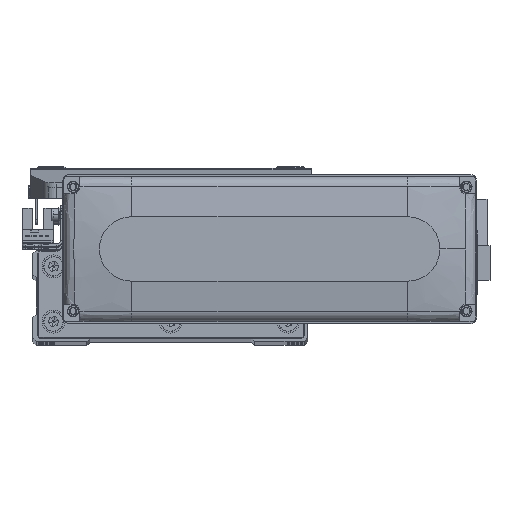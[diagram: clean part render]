
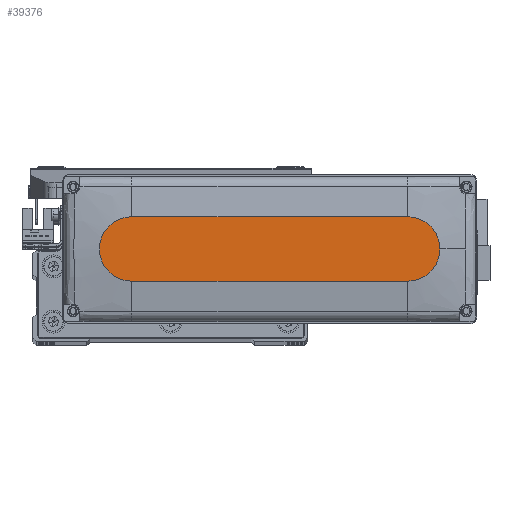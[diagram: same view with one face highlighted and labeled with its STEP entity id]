
A CAD part, top view. The second image highlights one B-rep face of the part: STEP entity #39376.
In plain terms, the highlighted planar face has unit normal (0, 0, 1).
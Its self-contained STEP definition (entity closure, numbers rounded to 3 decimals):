
#753 = ORIENTED_EDGE ( 'NONE', *, *, #21655, .T. ) ;
#1985 = CARTESIAN_POINT ( 'NONE',  ( 0., 0., 28.5 ) ) ;
#2040 = CARTESIAN_POINT ( 'NONE',  ( 60., 14., 28.5 ) ) ;
#2732 = CARTESIAN_POINT ( 'NONE',  ( -60., 14., 28.5 ) ) ;
#3258 = EDGE_CURVE ( 'NONE', #52923, #38708, #5614, .T. ) ;
#5614 = CIRCLE ( 'NONE', #6476, 14. ) ;
#6430 = ORIENTED_EDGE ( 'NONE', *, *, #21506, .T. ) ;
#6476 = AXIS2_PLACEMENT_3D ( 'NONE', #23831, #24091, #53182 ) ;
#7937 = DIRECTION ( 'NONE',  ( 1., 0., 0. ) ) ;
#8866 = AXIS2_PLACEMENT_3D ( 'NONE', #30537, #39084, #38002 ) ;
#9226 = CARTESIAN_POINT ( 'NONE',  ( 60., 0., 28.5 ) ) ;
#9383 = DIRECTION ( 'NONE',  ( 0., 0., 1. ) ) ;
#9647 = VECTOR ( 'NONE', #53135, 1000. ) ;
#9873 = EDGE_CURVE ( 'NONE', #38708, #47967, #41985, .T. ) ;
#9982 = LINE ( 'NONE', #23396, #33436 ) ;
#11039 = CARTESIAN_POINT ( 'NONE',  ( 74., 0., 28.5 ) ) ;
#11961 = AXIS2_PLACEMENT_3D ( 'NONE', #1985, #9383, #18719 ) ;
#16150 = EDGE_CURVE ( 'NONE', #24397, #52923, #41325, .T. ) ;
#18719 = DIRECTION ( 'NONE',  ( 1., 0., 0. ) ) ;
#21506 = EDGE_CURVE ( 'NONE', #50045, #24397, #32516, .T. ) ;
#21655 = EDGE_CURVE ( 'NONE', #47967, #50045, #9982, .T. ) ;
#23396 = CARTESIAN_POINT ( 'NONE',  ( -60., 14., 28.5 ) ) ;
#23547 = CARTESIAN_POINT ( 'NONE',  ( -60., -14., 28.5 ) ) ;
#23831 = CARTESIAN_POINT ( 'NONE',  ( 60., 0., 28.5 ) ) ;
#24091 = DIRECTION ( 'NONE',  ( 0., 0., 1. ) ) ;
#24397 = VERTEX_POINT ( 'NONE', #23547 ) ;
#29628 = ORIENTED_EDGE ( 'NONE', *, *, #3258, .T. ) ;
#30537 = CARTESIAN_POINT ( 'NONE',  ( -60., 0., 28.5 ) ) ;
#32516 = CIRCLE ( 'NONE', #8866, 14. ) ;
#33011 = ORIENTED_EDGE ( 'NONE', *, *, #9873, .T. ) ;
#33436 = VECTOR ( 'NONE', #52780, 1000. ) ;
#34065 = CARTESIAN_POINT ( 'NONE',  ( 60., -14., 28.5 ) ) ;
#38002 = DIRECTION ( 'NONE',  ( 1., 0., 0. ) ) ;
#38494 = PLANE ( 'NONE',  #11961 ) ;
#38708 = VERTEX_POINT ( 'NONE', #11039 ) ;
#39084 = DIRECTION ( 'NONE',  ( 0., 0., 1. ) ) ;
#39376 = ADVANCED_FACE ( 'NONE', ( #51112 ), #38494, .T. ) ;
#41325 = LINE ( 'NONE', #45164, #9647 ) ;
#41985 = CIRCLE ( 'NONE', #50763, 14. ) ;
#42685 = DIRECTION ( 'NONE',  ( 0., 0., 1. ) ) ;
#45164 = CARTESIAN_POINT ( 'NONE',  ( -60., -14., 28.5 ) ) ;
#47135 = ORIENTED_EDGE ( 'NONE', *, *, #16150, .T. ) ;
#47967 = VERTEX_POINT ( 'NONE', #2040 ) ;
#50045 = VERTEX_POINT ( 'NONE', #2732 ) ;
#50763 = AXIS2_PLACEMENT_3D ( 'NONE', #9226, #42685, #7937 ) ;
#51112 = FACE_OUTER_BOUND ( 'NONE', #51467, .T. ) ;
#51467 = EDGE_LOOP ( 'NONE', ( #753, #6430, #47135, #29628, #33011 ) ) ;
#52780 = DIRECTION ( 'NONE',  ( -1., 0., 0. ) ) ;
#52923 = VERTEX_POINT ( 'NONE', #34065 ) ;
#53135 = DIRECTION ( 'NONE',  ( 1., 0., 0. ) ) ;
#53182 = DIRECTION ( 'NONE',  ( 1., 0., 0. ) ) ;
